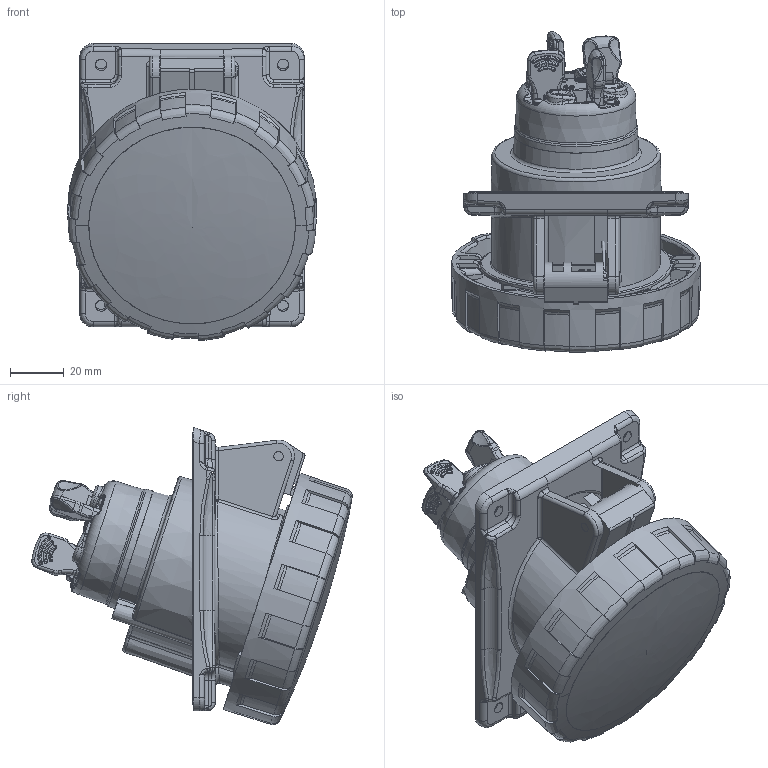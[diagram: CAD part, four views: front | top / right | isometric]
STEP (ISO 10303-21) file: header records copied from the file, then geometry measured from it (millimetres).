
FILE_DESCRIPTION(/* description */ (''),/* implementation_level */ '2;1');
FILE_NAME(/* name */ '4001913.stp',/* time_stamp */ '2016-09-22T11:03:57+02:00',/* author */ (''),/* organization */ (''),/* preprocessor_version */ 'ST-DEVELOPER v16',/* originating_system */ 'SIEMENS PLM Software NX 11.0',/* authorisation */ '');
FILE_SCHEMA (('AUTOMOTIVE_DESIGN { 1 0 10303 214 3 1 1 1 }'));
Products named in the file (1): 4001913_LINKEDEXT_jt
Bounding box: 92.96 x 119.82 x 111.14 mm (x, y, z)
Surface area: 85117.8 mm2 (no closed solid volume)
Topology: 0 solids, 87 shells, 1151 faces, 4356 edges, 3134 vertices
Faces by surface type: bspline 554, plane 226, cylinder 224, cone 78, sphere 30, torus 24, extrusion 15
Full cylindrical faces by diameter (mm): 1.1 x1, 2.4 x2, 4.25 x1, 77.2 x1
Entity records: 93758 total; most frequent: CARTESIAN_POINT 55673, ORIENTED_EDGE 6288, DIRECTION 4308, EDGE_CURVE 4269, VERTEX_POINT 3123, B_SPLINE_CURVE_WITH_KNOTS 2053, AXIS2_PLACEMENT_3D 1499, VECTOR 1310
